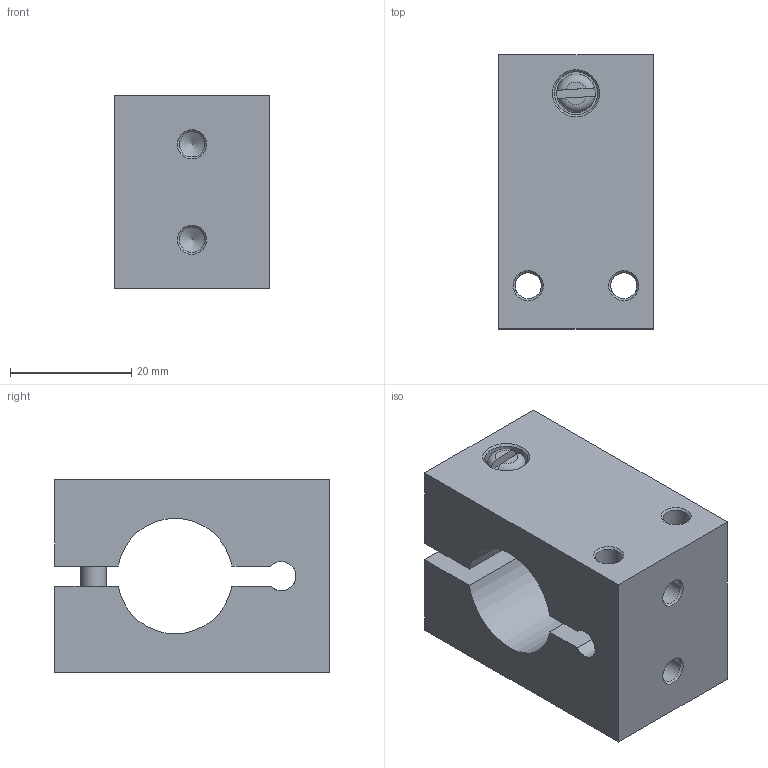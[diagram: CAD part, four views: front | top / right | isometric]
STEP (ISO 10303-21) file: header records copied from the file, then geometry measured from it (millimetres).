
FILE_DESCRIPTION(/* description */ (''),/* implementation_level */ '2;1');
FILE_NAME(/* name */ 'C:\Users\Justin\Documents\CAD Drawings\The Sensor Connection\3D\LVDT\LVDT-MTD-750-DEL.stp',/* time_stamp */ '2018-07-02T10:35:20-04:00',/* author */ ('Justin'),/* organization */ (''),/* preprocessor_version */ 'ST-DEVELOPER v17',/* originating_system */ 'Autodesk Inventor 2019',/* authorisation */ '');
FILE_SCHEMA (('AUTOMOTIVE_DESIGN { 1 0 10303 214 3 1 1 }'));
Length unit declared in the file: inch
Products named in the file (3): LVDT-MTD-750-DEL; LVDT-MTD-750-DEL_1; #1726
Assembly tree (2 placements, depth 2):
  LVDT-MTD-750-DEL
    LVDT-MTD-750-DEL_1
    #1726
Bounding box: 25.4 x 45.21 x 31.78 mm (x, y, z)
Volume: 26143 mm3; surface area: 10297.5 mm2
Topology: 2 solids, 2 shells, 43 faces, 121 edges, 82 vertices
Faces by surface type: plane 19, cylinder 12, cone 10, torus 2
Full cylindrical faces by diameter (mm): 4.166 x4, 4.318 x3, 6.35 x1, 7.112 x1
Entity records: 1717 total; most frequent: CARTESIAN_POINT 443, DIRECTION 255, ORIENTED_EDGE 238, EDGE_CURVE 119, AXIS2_PLACEMENT_3D 98, VERTEX_POINT 82, LINE 59, VECTOR 59
